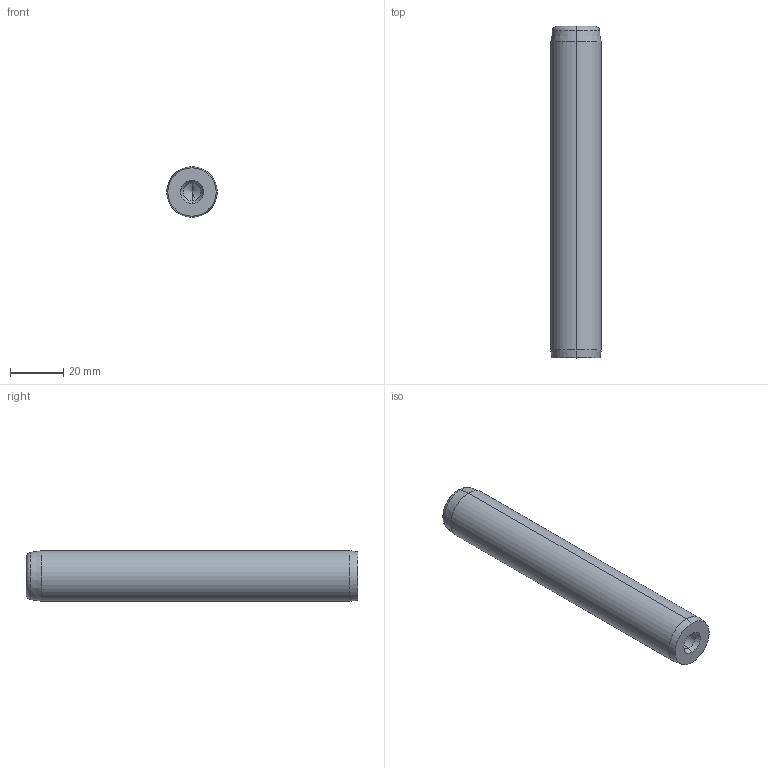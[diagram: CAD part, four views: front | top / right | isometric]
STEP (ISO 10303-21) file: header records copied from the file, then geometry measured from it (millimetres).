
FILE_DESCRIPTION (( 'STEP AP214' ), '1' );
FILE_NAME ('D14_19125.STEP', '2011-12-24T22:27:25', ( 'Dell' ), ( '' ), 'SwSTEP 2.0', 'SolidWorks 2010', '' );
FILE_SCHEMA (( 'AUTOMOTIVE_DESIGN' ));
Length unit declared in the file: metre
Products named in the file (1): D14_19125
Bounding box: 19 x 125 x 19 mm (x, y, z)
Volume: 33259.7 mm3; surface area: 9005.6 mm2
Topology: 1 solids, 1 shells, 22 faces, 46 edges, 24 vertices
Faces by surface type: cone 12, cylinder 6, torus 2, plane 2
Entity records: 588 total; most frequent: DIRECTION 112, CARTESIAN_POINT 89, ORIENTED_EDGE 84, AXIS2_PLACEMENT_3D 47, EDGE_CURVE 42, CIRCLE 24, EDGE_LOOP 24, VERTEX_POINT 24
